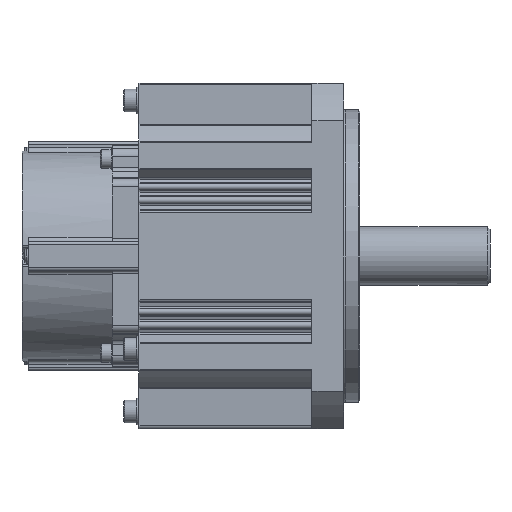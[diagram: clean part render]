
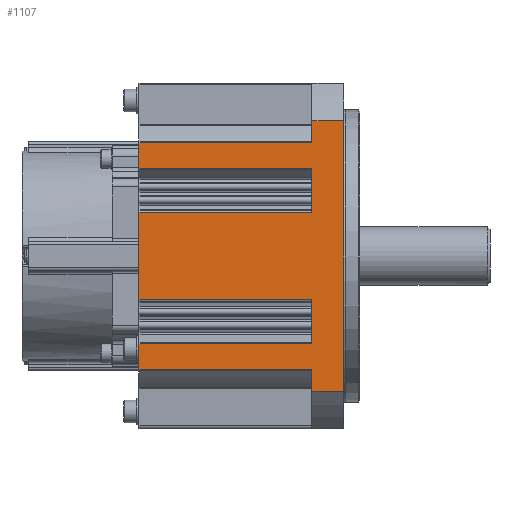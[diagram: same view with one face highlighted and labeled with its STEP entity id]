
A CAD part, front view. The second image highlights one B-rep face of the part: STEP entity #1107.
In plain terms, the highlighted planar face has unit normal (0, -1, 0).
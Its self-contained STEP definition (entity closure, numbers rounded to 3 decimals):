
#1107 = ADVANCED_FACE( '', ( #2549 ), #2550, .T. );
#2549 = FACE_OUTER_BOUND( '', #4337, .T. );
#2550 = PLANE( '', #4338 );
#4337 = EDGE_LOOP( '', ( #7607, #7608, #7609, #7610, #7611, #7612, #7613, #7614, #7615, #7616, #7617, #7618, #7619, #7620, #7621, #7622, #7623, #7624, #7625, #7626 ) );
#4338 = AXIS2_PLACEMENT_3D( '', #7627, #7628, #7629 );
#7607 = ORIENTED_EDGE( '', *, *, #11089, .F. );
#7608 = ORIENTED_EDGE( '', *, *, #11433, .T. );
#7609 = ORIENTED_EDGE( '', *, *, #11434, .F. );
#7610 = ORIENTED_EDGE( '', *, *, #11435, .F. );
#7611 = ORIENTED_EDGE( '', *, *, #10375, .F. );
#7612 = ORIENTED_EDGE( '', *, *, #11436, .T. );
#7613 = ORIENTED_EDGE( '', *, *, #11437, .T. );
#7614 = ORIENTED_EDGE( '', *, *, #11438, .F. );
#7615 = ORIENTED_EDGE( '', *, *, #11439, .F. );
#7616 = ORIENTED_EDGE( '', *, *, #11440, .F. );
#7617 = ORIENTED_EDGE( '', *, *, #10735, .F. );
#7618 = ORIENTED_EDGE( '', *, *, #10524, .T. );
#7619 = ORIENTED_EDGE( '', *, *, #11441, .T. );
#7620 = ORIENTED_EDGE( '', *, *, #10942, .F. );
#7621 = ORIENTED_EDGE( '', *, *, #11161, .F. );
#7622 = ORIENTED_EDGE( '', *, *, #11442, .F. );
#7623 = ORIENTED_EDGE( '', *, *, #11443, .F. );
#7624 = ORIENTED_EDGE( '', *, *, #11063, .T. );
#7625 = ORIENTED_EDGE( '', *, *, #11444, .T. );
#7626 = ORIENTED_EDGE( '', *, *, #10627, .F. );
#7627 = CARTESIAN_POINT( '', ( -77., -65., 50.806 ) );
#7628 = DIRECTION( '', ( 0., -1., 0. ) );
#7629 = DIRECTION( '', ( 0., 0., -1. ) );
#10375 = EDGE_CURVE( '', #12447, #12449, #12450, .T. );
#10524 = EDGE_CURVE( '', #12707, #12705, #12708, .T. );
#10627 = EDGE_CURVE( '', #12876, #12871, #12878, .T. );
#10735 = EDGE_CURVE( '', #12707, #13057, #13058, .T. );
#10942 = EDGE_CURVE( '', #13376, #13374, #13378, .T. );
#11063 = EDGE_CURVE( '', #13567, #13565, #13568, .T. );
#11089 = EDGE_CURVE( '', #13607, #12876, #13608, .T. );
#11161 = EDGE_CURVE( '', #12859, #13376, #13721, .T. );
#11433 = EDGE_CURVE( '', #13607, #14109, #14110, .T. );
#11434 = EDGE_CURVE( '', #14111, #14109, #14112, .T. );
#11435 = EDGE_CURVE( '', #12449, #14111, #14113, .T. );
#11436 = EDGE_CURVE( '', #12447, #14114, #14115, .T. );
#11437 = EDGE_CURVE( '', #14114, #14116, #14117, .T. );
#11438 = EDGE_CURVE( '', #14118, #14116, #14119, .T. );
#11439 = EDGE_CURVE( '', #13543, #14118, #14120, .T. );
#11440 = EDGE_CURVE( '', #13057, #13543, #14121, .T. );
#11441 = EDGE_CURVE( '', #12705, #13374, #14122, .T. );
#11442 = EDGE_CURVE( '', #14123, #12859, #14124, .T. );
#11443 = EDGE_CURVE( '', #13567, #14123, #14125, .T. );
#11444 = EDGE_CURVE( '', #13565, #12871, #14126, .T. );
#12447 = VERTEX_POINT( '', #15451 );
#12449 = VERTEX_POINT( '', #15453 );
#12450 = LINE( '', #15454, #15455 );
#12705 = VERTEX_POINT( '', #15831 );
#12707 = VERTEX_POINT( '', #15833 );
#12708 = LINE( '', #15834, #15835 );
#12859 = VERTEX_POINT( '', #16085 );
#12871 = VERTEX_POINT( '', #16101 );
#12876 = VERTEX_POINT( '', #16107 );
#12878 = LINE( '', #16109, #16110 );
#13057 = VERTEX_POINT( '', #16375 );
#13058 = LINE( '', #16376, #16377 );
#13374 = VERTEX_POINT( '', #16805 );
#13376 = VERTEX_POINT( '', #16807 );
#13378 = LINE( '', #16809, #16810 );
#13543 = VERTEX_POINT( '', #17038 );
#13565 = VERTEX_POINT( '', #17065 );
#13567 = VERTEX_POINT( '', #17067 );
#13568 = LINE( '', #17068, #17069 );
#13607 = VERTEX_POINT( '', #17122 );
#13608 = LINE( '', #17123, #17124 );
#13721 = LINE( '', #17281, #17282 );
#14109 = VERTEX_POINT( '', #17825 );
#14110 = LINE( '', #17826, #17827 );
#14111 = VERTEX_POINT( '', #17828 );
#14112 = LINE( '', #17829, #17830 );
#14113 = LINE( '', #17831, #17832 );
#14114 = VERTEX_POINT( '', #17833 );
#14115 = LINE( '', #17834, #17835 );
#14116 = VERTEX_POINT( '', #17836 );
#14117 = LINE( '', #17837, #17838 );
#14118 = VERTEX_POINT( '', #17839 );
#14119 = LINE( '', #17840, #17841 );
#14120 = LINE( '', #17842, #17843 );
#14121 = LINE( '', #17844, #17845 );
#14122 = LINE( '', #17846, #17847 );
#14123 = VERTEX_POINT( '', #17848 );
#14124 = LINE( '', #17849, #17850 );
#14125 = LINE( '', #17851, #17852 );
#14126 = LINE( '', #17853, #17854 );
#15451 = CARTESIAN_POINT( '', ( -12., -65., 42.5 ) );
#15453 = CARTESIAN_POINT( '', ( -12., -65., 50.806 ) );
#15454 = CARTESIAN_POINT( '', ( -12., -65., 50.806 ) );
#15455 = VECTOR( '', #19179, 1000. );
#15831 = CARTESIAN_POINT( '', ( -77., -65., 16.5 ) );
#15833 = CARTESIAN_POINT( '', ( -12., -65., 16.5 ) );
#15834 = CARTESIAN_POINT( '', ( -12., -65., 16.5 ) );
#15835 = VECTOR( '', #19350, 1000. );
#16085 = CARTESIAN_POINT( '', ( -12., -65., -21. ) );
#16101 = CARTESIAN_POINT( '', ( -77., -65., -42.5 ) );
#16107 = CARTESIAN_POINT( '', ( -12., -65., -42.5 ) );
#16109 = CARTESIAN_POINT( '', ( -12., -65., -42.5 ) );
#16110 = VECTOR( '', #19470, 1000. );
#16375 = CARTESIAN_POINT( '', ( -12., -65., 21. ) );
#16376 = CARTESIAN_POINT( '', ( -12., -65., 50.806 ) );
#16377 = VECTOR( '', #19608, 1000. );
#16805 = CARTESIAN_POINT( '', ( -77., -65., -16.5 ) );
#16807 = CARTESIAN_POINT( '', ( -12., -65., -16.5 ) );
#16809 = CARTESIAN_POINT( '', ( -12., -65., -16.5 ) );
#16810 = VECTOR( '', #19869, 1000. );
#17038 = CARTESIAN_POINT( '', ( -12., -65., 26. ) );
#17065 = CARTESIAN_POINT( '', ( -77., -65., -33.089 ) );
#17067 = CARTESIAN_POINT( '', ( -12., -65., -33.089 ) );
#17068 = CARTESIAN_POINT( '', ( -12., -65., -33.089 ) );
#17069 = VECTOR( '', #20037, 1000. );
#17122 = CARTESIAN_POINT( '', ( -12., -65., -50.806 ) );
#17123 = CARTESIAN_POINT( '', ( -12., -65., 50.806 ) );
#17124 = VECTOR( '', #20067, 1000. );
#17281 = CARTESIAN_POINT( '', ( -12., -65., 50.806 ) );
#17282 = VECTOR( '', #20170, 1000. );
#17825 = CARTESIAN_POINT( '', ( 0., -65., -50.806 ) );
#17826 = CARTESIAN_POINT( '', ( -77., -65., -50.806 ) );
#17827 = VECTOR( '', #20550, 1000. );
#17828 = CARTESIAN_POINT( '', ( 0., -65., 50.806 ) );
#17829 = CARTESIAN_POINT( '', ( 0., -65., 50.806 ) );
#17830 = VECTOR( '', #20551, 1000. );
#17831 = CARTESIAN_POINT( '', ( -77., -65., 50.806 ) );
#17832 = VECTOR( '', #20552, 1000. );
#17833 = CARTESIAN_POINT( '', ( -77., -65., 42.5 ) );
#17834 = CARTESIAN_POINT( '', ( -12., -65., 42.5 ) );
#17835 = VECTOR( '', #20553, 1000. );
#17836 = CARTESIAN_POINT( '', ( -77., -65., 33.089 ) );
#17837 = CARTESIAN_POINT( '', ( -77., -65., 50.806 ) );
#17838 = VECTOR( '', #20554, 1000. );
#17839 = CARTESIAN_POINT( '', ( -12., -65., 33.089 ) );
#17840 = CARTESIAN_POINT( '', ( -12., -65., 33.089 ) );
#17841 = VECTOR( '', #20555, 1000. );
#17842 = CARTESIAN_POINT( '', ( -12., -65., 50.806 ) );
#17843 = VECTOR( '', #20556, 1000. );
#17844 = CARTESIAN_POINT( '', ( -12., -65., 50.806 ) );
#17845 = VECTOR( '', #20557, 1000. );
#17846 = CARTESIAN_POINT( '', ( -77., -65., 50.806 ) );
#17847 = VECTOR( '', #20558, 1000. );
#17848 = CARTESIAN_POINT( '', ( -12., -65., -26. ) );
#17849 = CARTESIAN_POINT( '', ( -12., -65., 50.806 ) );
#17850 = VECTOR( '', #20559, 1000. );
#17851 = CARTESIAN_POINT( '', ( -12., -65., 50.806 ) );
#17852 = VECTOR( '', #20560, 1000. );
#17853 = CARTESIAN_POINT( '', ( -77., -65., 50.806 ) );
#17854 = VECTOR( '', #20561, 1000. );
#19179 = DIRECTION( '', ( 0., 0., 1. ) );
#19350 = DIRECTION( '', ( -1., 0., 0. ) );
#19470 = DIRECTION( '', ( -1., 0., 0. ) );
#19608 = DIRECTION( '', ( 0., 0., 1. ) );
#19869 = DIRECTION( '', ( -1., 0., 0. ) );
#20037 = DIRECTION( '', ( -1., 0., 0. ) );
#20067 = DIRECTION( '', ( 0., 0., 1. ) );
#20170 = DIRECTION( '', ( 0., 0., 1. ) );
#20550 = DIRECTION( '', ( 1., 0., 0. ) );
#20551 = DIRECTION( '', ( 0., 0., -1. ) );
#20552 = DIRECTION( '', ( 1., 0., 0. ) );
#20553 = DIRECTION( '', ( -1., 0., 0. ) );
#20554 = DIRECTION( '', ( 0., 0., -1. ) );
#20555 = DIRECTION( '', ( -1., 0., 0. ) );
#20556 = DIRECTION( '', ( 0., 0., 1. ) );
#20557 = DIRECTION( '', ( 0., 0., 1. ) );
#20558 = DIRECTION( '', ( 0., 0., -1. ) );
#20559 = DIRECTION( '', ( 0., 0., 1. ) );
#20560 = DIRECTION( '', ( 0., 0., 1. ) );
#20561 = DIRECTION( '', ( 0., 0., -1. ) );
